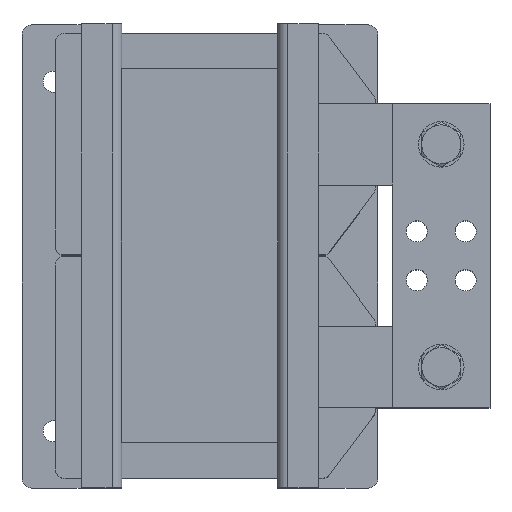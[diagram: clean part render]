
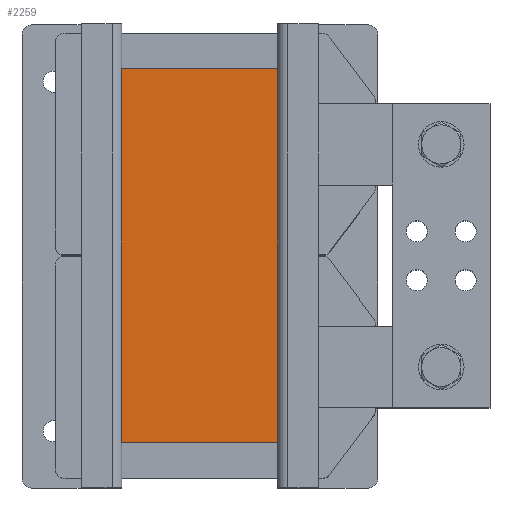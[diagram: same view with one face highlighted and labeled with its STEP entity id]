
A CAD part, top view. The second image highlights one B-rep face of the part: STEP entity #2259.
In plain terms, the highlighted planar face has unit normal (0, 0, 1).
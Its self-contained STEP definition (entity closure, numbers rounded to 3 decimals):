
#2259=ADVANCED_FACE('',(#3767),#3769,.T.);
#3767=FACE_BOUND('',#3768,.T.);
#3768=EDGE_LOOP('',(#5581,#5582,#5583,#5584));
#3769=PLANE('',#3770);
#3770=AXIS2_PLACEMENT_3D('',#3771,#3772,#3773);
#3771=CARTESIAN_POINT('',(0.,0.,333.));
#3772=DIRECTION('',(0.,0.,1.));
#3773=DIRECTION('',(-1.,0.,0.));
#5581=ORIENTED_EDGE('',*,*,#6496,.T.);
#5582=ORIENTED_EDGE('',*,*,#6396,.T.);
#5583=ORIENTED_EDGE('',*,*,#6495,.T.);
#5584=ORIENTED_EDGE('',*,*,#6404,.T.);
#6396=EDGE_CURVE('',#7106,#7104,#7107,.T.);
#6404=EDGE_CURVE('',#7122,#7120,#7123,.T.);
#6495=EDGE_CURVE('',#7104,#7122,#7281,.T.);
#6496=EDGE_CURVE('',#7120,#7106,#7282,.T.);
#7104=VERTEX_POINT('',#8516);
#7106=VERTEX_POINT('',#8520);
#7107=LINE('',#8521,#8522);
#7120=VERTEX_POINT('',#8550);
#7122=VERTEX_POINT('',#8554);
#7123=LINE('',#8555,#8556);
#7281=LINE('',#8921,#8922);
#7282=LINE('',#8924,#8925);
#8516=CARTESIAN_POINT('',(48.,115.,333.));
#8520=CARTESIAN_POINT('',(48.,-115.,333.));
#8521=CARTESIAN_POINT('',(48.,-115.,333.));
#8522=VECTOR('',#8523,1.);
#8523=DIRECTION('',(0.,1.,0.));
#8550=CARTESIAN_POINT('',(-48.,-115.,333.));
#8554=CARTESIAN_POINT('',(-48.,115.,333.));
#8555=CARTESIAN_POINT('',(-48.,115.,333.));
#8556=VECTOR('',#8557,1.);
#8557=DIRECTION('',(0.,-1.,0.));
#8921=CARTESIAN_POINT('',(48.,115.,333.));
#8922=VECTOR('',#8923,1.);
#8923=DIRECTION('',(-1.,0.,0.));
#8924=CARTESIAN_POINT('',(-48.,-115.,333.));
#8925=VECTOR('',#8926,1.);
#8926=DIRECTION('',(1.,0.,0.));
